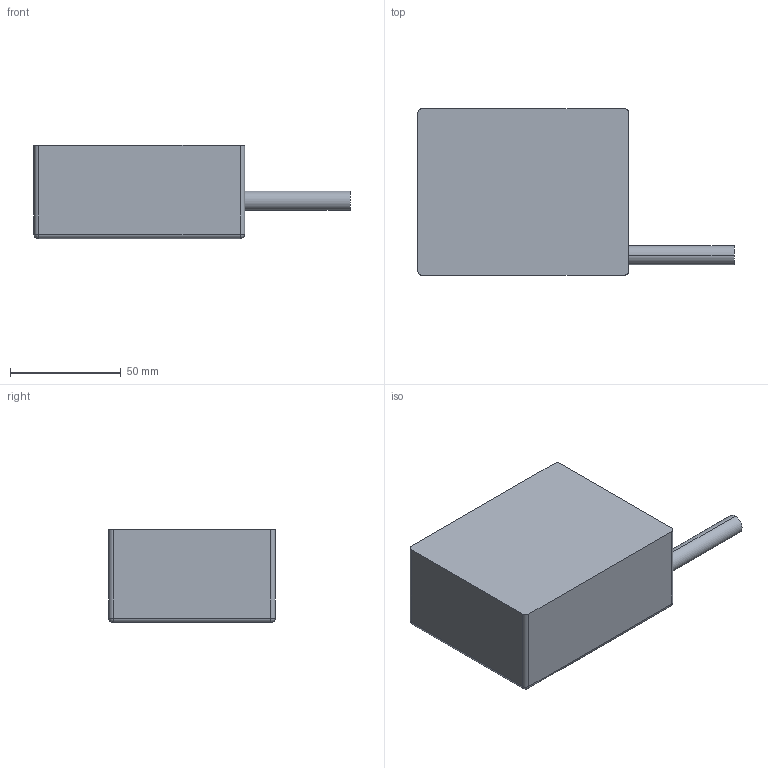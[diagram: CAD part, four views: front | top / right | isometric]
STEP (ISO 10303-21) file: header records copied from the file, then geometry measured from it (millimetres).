
FILE_DESCRIPTION (( 'STEP AP214' ), '1' );
FILE_NAME ('FLS-75-95¶¯×Ó.STEP', '2021-08-19T03:26:26', ( '' ), ( '' ), 'SwSTEP 2.0', 'SolidWorks 2016', '' );
FILE_SCHEMA (( 'AUTOMOTIVE_DESIGN' ));
Length unit declared in the file: millimetre
Products named in the file (1): FLS-75-95雄赽
Bounding box: 142.5 x 75 x 42 mm (x, y, z)
Volume: 300469.5 mm3; surface area: 30450 mm2
Topology: 1 solids, 1 shells, 53 faces, 126 edges, 64 vertices
Faces by surface type: cylinder 26, cone 16, plane 7, sphere 4
Entity records: 1582 total; most frequent: DIRECTION 266, CARTESIAN_POINT 224, ORIENTED_EDGE 212, EDGE_CURVE 106, AXIS2_PLACEMENT_3D 106, VERTEX_POINT 64, EDGE_LOOP 62, LINE 54
